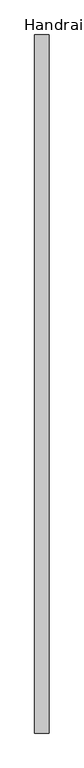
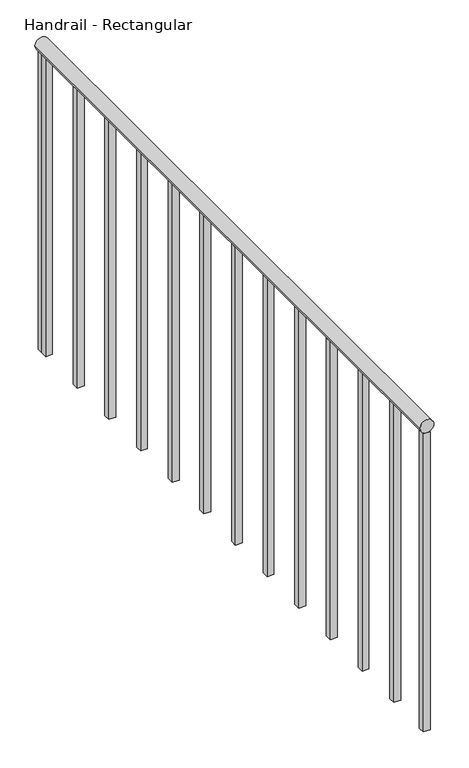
"""IFC4 building model written with IfcOpenShell, lengths in millimetres: railing geometry, Handrail - Rectangular."""

from ifc_helpers import new_model, si_unit, point, frame, frame_2d, origin, place, context, project, spatial, polyline, circle_curve, trimmed, segment, composite_curve, outline, extrude, source, transform, mapped, element, save


def handrail_rectangular_50dfef9f(model_context):
    return source(origin(), model_context, "Body", "SweptSolid", [
        extrude(outline(composite_curve([segment(trimmed(circle_curve(frame_2d((10039.35, 2297.1410437)), 19.05), [point((10039.35, 2316.1910437))], [point((10039.35, 2278.0910437))], False, "CARTESIAN"), True, "CONTINUOUS"), segment(trimmed(circle_curve(frame_2d((10039.35, 2297.1410437)), 19.05), [point((10039.35, 2278.0910437))], [point((10039.35, 2316.1910437))], False, "CARTESIAN"), True, "CONTINUOUS")], self_intersect=False)), frame((0.0, -30041.3683133, 0.0), z_axis=(0.0, 1.0, 0.0), x_axis=(0.0, 0.0, 1.0)), (0.0, 0.0, 1.0), 1854.2),
        extrude(outline(polyline([(2287.6160437, -28222.0933133), (2287.6160437, -28203.0433133), (2306.6660437, -28203.0433133), (2306.6660437, -28222.0933133), (2287.6160437, -28222.0933133)])), frame((0.0, 0.0, 9144.0), z_axis=(0.0, 0.0, 1.0), x_axis=(1.0, 0.0, 0.0)), (0.0, 0.0, 1.0), 876.3),
        extrude(outline(polyline([(2287.6160437, -28374.4933133), (2287.6160437, -28355.4433133), (2306.6660437, -28355.4433133), (2306.6660437, -28374.4933133), (2287.6160437, -28374.4933133)])), frame((0.0, 0.0, 9144.0), z_axis=(0.0, 0.0, 1.0), x_axis=(1.0, 0.0, 0.0)), (0.0, 0.0, 1.0), 876.3),
        extrude(outline(polyline([(2287.6160437, -28526.8933133), (2287.6160437, -28507.8433133), (2306.6660437, -28507.8433133), (2306.6660437, -28526.8933133), (2287.6160437, -28526.8933133)])), frame((0.0, 0.0, 9144.0), z_axis=(0.0, 0.0, 1.0), x_axis=(1.0, 0.0, 0.0)), (0.0, 0.0, 1.0), 876.3),
        extrude(outline(polyline([(2287.6160437, -28679.2933133), (2287.6160437, -28660.2433133), (2306.6660437, -28660.2433133), (2306.6660437, -28679.2933133), (2287.6160437, -28679.2933133)])), frame((0.0, 0.0, 9144.0), z_axis=(0.0, 0.0, 1.0), x_axis=(1.0, 0.0, 0.0)), (0.0, 0.0, 1.0), 876.3),
        extrude(outline(polyline([(2287.6160437, -28831.6933133), (2287.6160437, -28812.6433133), (2306.6660437, -28812.6433133), (2306.6660437, -28831.6933133), (2287.6160437, -28831.6933133)])), frame((0.0, 0.0, 9144.0), z_axis=(0.0, 0.0, 1.0), x_axis=(1.0, 0.0, 0.0)), (0.0, 0.0, 1.0), 876.3),
        extrude(outline(polyline([(2287.6160437, -28984.0933133), (2287.6160437, -28965.0433133), (2306.6660437, -28965.0433133), (2306.6660437, -28984.0933133), (2287.6160437, -28984.0933133)])), frame((0.0, 0.0, 9144.0), z_axis=(0.0, 0.0, 1.0), x_axis=(1.0, 0.0, 0.0)), (0.0, 0.0, 1.0), 876.3),
        extrude(outline(polyline([(2287.6160437, -29136.4933133), (2287.6160437, -29117.4433133), (2306.6660437, -29117.4433133), (2306.6660437, -29136.4933133), (2287.6160437, -29136.4933133)])), frame((0.0, 0.0, 9144.0), z_axis=(0.0, 0.0, 1.0), x_axis=(1.0, 0.0, 0.0)), (0.0, 0.0, 1.0), 876.3),
        extrude(outline(polyline([(2287.6160437, -29288.8933133), (2287.6160437, -29269.8433133), (2306.6660437, -29269.8433133), (2306.6660437, -29288.8933133), (2287.6160437, -29288.8933133)])), frame((0.0, 0.0, 9144.0), z_axis=(0.0, 0.0, 1.0), x_axis=(1.0, 0.0, 0.0)), (0.0, 0.0, 1.0), 876.3),
        extrude(outline(polyline([(2287.6160437, -29441.2933133), (2287.6160437, -29422.2433133), (2306.6660437, -29422.2433133), (2306.6660437, -29441.2933133), (2287.6160437, -29441.2933133)])), frame((0.0, 0.0, 9144.0), z_axis=(0.0, 0.0, 1.0), x_axis=(1.0, 0.0, 0.0)), (0.0, 0.0, 1.0), 876.3),
        extrude(outline(polyline([(2287.6160437, -29593.6933133), (2287.6160437, -29574.6433133), (2306.6660437, -29574.6433133), (2306.6660437, -29593.6933133), (2287.6160437, -29593.6933133)])), frame((0.0, 0.0, 9144.0), z_axis=(0.0, 0.0, 1.0), x_axis=(1.0, 0.0, 0.0)), (0.0, 0.0, 1.0), 876.3),
        extrude(outline(polyline([(2287.6160437, -29746.0933133), (2287.6160437, -29727.0433133), (2306.6660437, -29727.0433133), (2306.6660437, -29746.0933133), (2287.6160437, -29746.0933133)])), frame((0.0, 0.0, 9144.0), z_axis=(0.0, 0.0, 1.0), x_axis=(1.0, 0.0, 0.0)), (0.0, 0.0, 1.0), 876.3),
        extrude(outline(polyline([(2287.6160437, -29898.4933133), (2287.6160437, -29879.4433133), (2306.6660437, -29879.4433133), (2306.6660437, -29898.4933133), (2287.6160437, -29898.4933133)])), frame((0.0, 0.0, 9144.0), z_axis=(0.0, 0.0, 1.0), x_axis=(1.0, 0.0, 0.0)), (0.0, 0.0, 1.0), 876.3),
        extrude(outline(polyline([(2287.6160437, -28206.2183133), (2287.6160437, -28187.1683133), (2306.6660437, -28187.1683133), (2306.6660437, -28206.2183133), (2287.6160437, -28206.2183133)])), frame((0.0, 0.0, 9144.0), z_axis=(0.0, 0.0, 1.0), x_axis=(1.0, 0.0, 0.0)), (0.0, 0.0, 1.0), 876.3),
        extrude(outline(polyline([(2287.6160437, -30041.3683133), (2287.6160437, -30022.3183133), (2306.6660437, -30022.3183133), (2306.6660437, -30041.3683133), (2287.6160437, -30041.3683133)])), frame((0.0, 0.0, 9144.0), z_axis=(0.0, 0.0, 1.0), x_axis=(1.0, 0.0, 0.0)), (0.0, 0.0, 1.0), 876.3),
    ])


if __name__ == "__main__":
    model = new_model("IFC4")
    model_context = context("Model", 3, world=origin())
    ifc_project = project(units=[si_unit("LENGTHUNIT", "METRE", prefix="MILLI")], contexts=[model_context])
    site = spatial("IfcSite", under=ifc_project)
    building = spatial("IfcBuilding", under=site)
    placement = place(None, origin())
    handrail_rectangular_shape = handrail_rectangular_50dfef9f(model_context)
    element("IfcRailing", 1, ObjectType="Handrail - Rectangular", at=placement, inside=building, context=model_context, shape_type="MappedRepresentation", body=[
        mapped(handrail_rectangular_shape, transform((0.0, 0.0, 0.0), x_axis=(1.0, 0.0, 0.0), y_axis=(0.0, 1.0, 0.0), z_axis=(0.0, 0.0, 1.0))),
    ])
    save(model, "model.ifc")
